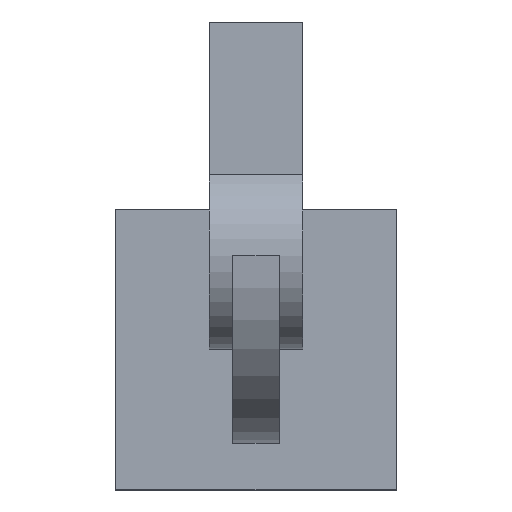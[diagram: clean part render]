
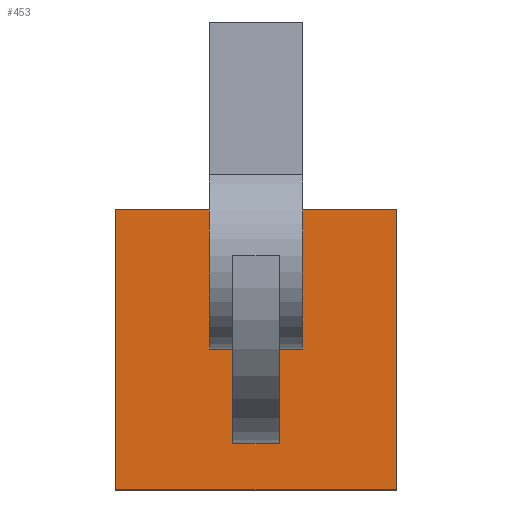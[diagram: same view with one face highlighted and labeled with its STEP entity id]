
A CAD part, top view. The second image highlights one B-rep face of the part: STEP entity #453.
In plain terms, the highlighted planar face has unit normal (0, 0, 1).
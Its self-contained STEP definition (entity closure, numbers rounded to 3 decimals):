
#27=FACE_BOUND('',#62,.T.);
#34=FACE_OUTER_BOUND('',#61,.T.);
#61=EDGE_LOOP('',(#323,#324,#325,#326));
#62=EDGE_LOOP('',(#327,#328,#329,#330));
#100=LINE('',#690,#155);
#101=LINE('',#692,#156);
#102=LINE('',#694,#157);
#103=LINE('',#695,#158);
#104=LINE('',#698,#159);
#105=LINE('',#700,#160);
#106=LINE('',#702,#161);
#107=LINE('',#703,#162);
#155=VECTOR('',#558,10.);
#156=VECTOR('',#559,10.);
#157=VECTOR('',#560,10.);
#158=VECTOR('',#561,10.);
#159=VECTOR('',#562,10.);
#160=VECTOR('',#563,10.);
#161=VECTOR('',#564,10.);
#162=VECTOR('',#565,10.);
#206=VERTEX_POINT('',#688);
#207=VERTEX_POINT('',#689);
#208=VERTEX_POINT('',#691);
#209=VERTEX_POINT('',#693);
#210=VERTEX_POINT('',#696);
#211=VERTEX_POINT('',#697);
#212=VERTEX_POINT('',#699);
#213=VERTEX_POINT('',#701);
#252=EDGE_CURVE('',#206,#207,#100,.T.);
#253=EDGE_CURVE('',#208,#206,#101,.T.);
#254=EDGE_CURVE('',#209,#208,#102,.T.);
#255=EDGE_CURVE('',#207,#209,#103,.T.);
#256=EDGE_CURVE('',#210,#211,#104,.T.);
#257=EDGE_CURVE('',#211,#212,#105,.T.);
#258=EDGE_CURVE('',#212,#213,#106,.T.);
#259=EDGE_CURVE('',#213,#210,#107,.T.);
#323=ORIENTED_EDGE('',*,*,#252,.F.);
#324=ORIENTED_EDGE('',*,*,#253,.F.);
#325=ORIENTED_EDGE('',*,*,#254,.F.);
#326=ORIENTED_EDGE('',*,*,#255,.F.);
#327=ORIENTED_EDGE('',*,*,#256,.T.);
#328=ORIENTED_EDGE('',*,*,#257,.T.);
#329=ORIENTED_EDGE('',*,*,#258,.T.);
#330=ORIENTED_EDGE('',*,*,#259,.T.);
#430=PLANE('',#499);
#453=ADVANCED_FACE('',(#34,#27),#430,.F.);
#499=AXIS2_PLACEMENT_3D('',#687,#556,#557);
#556=DIRECTION('center_axis',(0.,0.,-1.));
#557=DIRECTION('ref_axis',(-1.,0.,0.));
#558=DIRECTION('',(0.,1.,0.));
#559=DIRECTION('',(-1.,0.,0.));
#560=DIRECTION('',(0.,-1.,0.));
#561=DIRECTION('',(1.,0.,0.));
#562=DIRECTION('',(1.,0.,0.));
#563=DIRECTION('',(0.,-1.,0.));
#564=DIRECTION('',(-1.,0.,0.));
#565=DIRECTION('',(0.,1.,0.));
#687=CARTESIAN_POINT('Origin',(0.,-20.,-30.));
#688=CARTESIAN_POINT('',(-30.,-50.,-30.));
#689=CARTESIAN_POINT('',(-30.,10.,-30.));
#690=CARTESIAN_POINT('',(-30.,-50.,-30.));
#691=CARTESIAN_POINT('',(30.,-50.,-30.));
#692=CARTESIAN_POINT('',(30.,-50.,-30.));
#693=CARTESIAN_POINT('',(30.,10.,-30.));
#694=CARTESIAN_POINT('',(30.,10.,-30.));
#695=CARTESIAN_POINT('',(-30.,10.,-30.));
#696=CARTESIAN_POINT('',(-5.,0.,-30.));
#697=CARTESIAN_POINT('',(5.,0.,-30.));
#698=CARTESIAN_POINT('',(-5.,0.,-30.));
#699=CARTESIAN_POINT('',(5.,-40.,-30.));
#700=CARTESIAN_POINT('',(5.,0.,-30.));
#701=CARTESIAN_POINT('',(-5.,-40.,-30.));
#702=CARTESIAN_POINT('',(5.,-40.,-30.));
#703=CARTESIAN_POINT('',(-5.,-40.,-30.));
